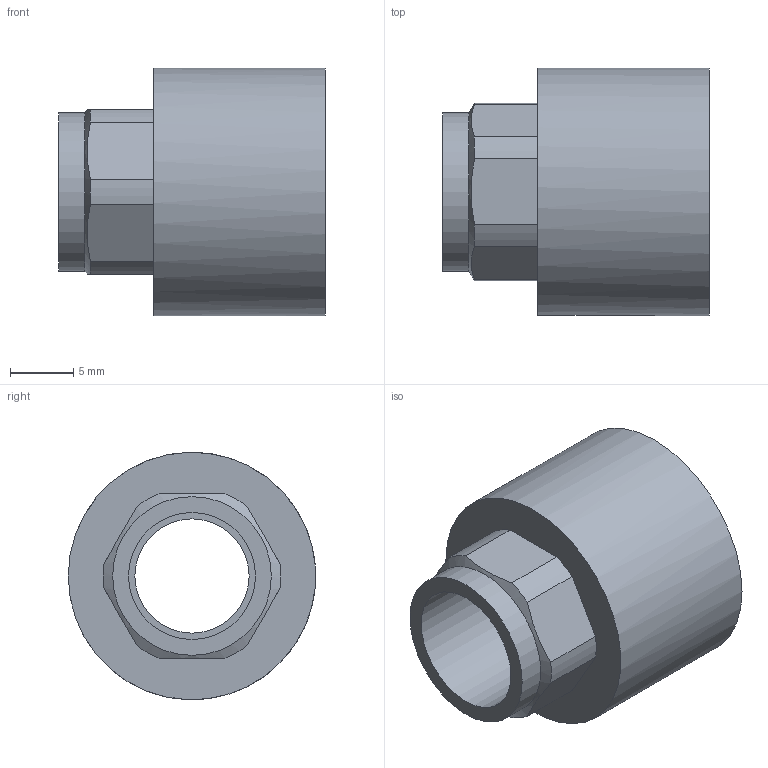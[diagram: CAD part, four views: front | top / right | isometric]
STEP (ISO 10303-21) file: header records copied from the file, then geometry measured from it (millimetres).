
FILE_DESCRIPTION((''),'2;1');
FILE_NAME('\\lg50001\SANHA_Legnica\Engineering\Public\RYSUNKI\SANHA POLSKA\4270G\inventor\14270_10-38(2).stp','2014-08-25T12:18:13',('gomulka'),(''),'Autodesk Inventor 2009','Autodesk Inventor 2009','');
FILE_SCHEMA(('AUTOMOTIVE_DESIGN { 1 0 10303 214 1 1 1 1 }'));
Length unit declared in the file: millimetre
Products named in the file (1): 14270_10-38(2)
Bounding box: 21 x 19.5 x 19.5 mm (x, y, z)
Volume: 2159 mm3; surface area: 2499 mm2
Topology: 1 solids, 1 shells, 27 faces, 62 edges, 40 vertices
Faces by surface type: cylinder 12, plane 11, cone 3, torus 1
Full cylindrical faces by diameter (mm): 9 x1, 10 x1, 12.5 x1, 14.95 x1, 17.3 x1, 19.5 x1
Entity records: 726 total; most frequent: CARTESIAN_POINT 128, DIRECTION 126, ORIENTED_EDGE 100, AXIS2_PLACEMENT_3D 54, EDGE_CURVE 50, EDGE_LOOP 42, VERTEX_POINT 38, FACE_OUTER_BOUND 27
